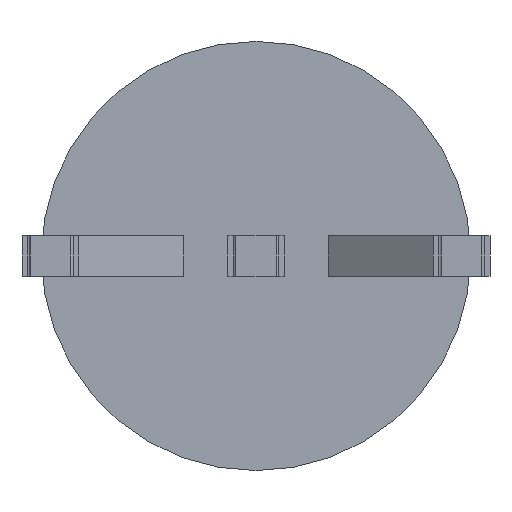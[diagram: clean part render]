
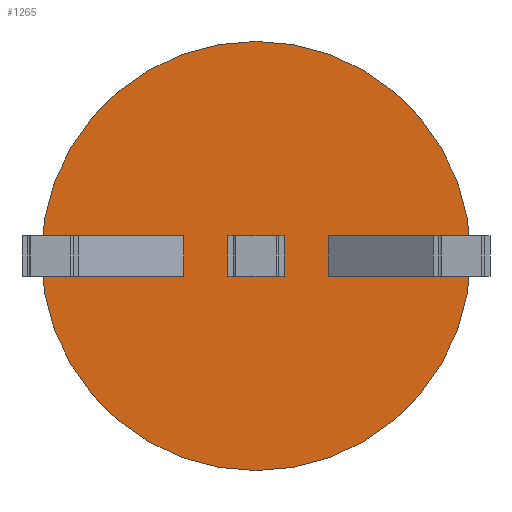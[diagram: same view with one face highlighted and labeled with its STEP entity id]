
A CAD part, front view. The second image highlights one B-rep face of the part: STEP entity #1265.
In plain terms, the highlighted planar face has unit normal (0, -1, 0).
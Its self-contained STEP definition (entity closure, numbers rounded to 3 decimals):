
#122=FACE_OUTER_BOUND('',#190,.T.);
#190=EDGE_LOOP('',(#1150));
#501=CIRCLE('',#1394,2.65);
#619=VERTEX_POINT('',#2112);
#794=EDGE_CURVE('',#619,#619,#501,.T.);
#1150=ORIENTED_EDGE('',*,*,#794,.F.);
#1198=PLANE('',#1400);
#1265=ADVANCED_FACE('',(#122),#1198,.T.);
#1394=AXIS2_PLACEMENT_3D('',#2114,#1742,#1743);
#1400=AXIS2_PLACEMENT_3D('',#2124,#1755,#1756);
#1742=DIRECTION('center_axis',(0.,1.,0.));
#1743=DIRECTION('ref_axis',(1.,0.,0.));
#1755=DIRECTION('center_axis',(0.,-1.,0.));
#1756=DIRECTION('ref_axis',(0.,0.,-1.));
#2112=CARTESIAN_POINT('',(-2.65,0.,0.));
#2114=CARTESIAN_POINT('Origin',(0.,0.,0.));
#2124=CARTESIAN_POINT('Origin',(0.,0.,0.));
